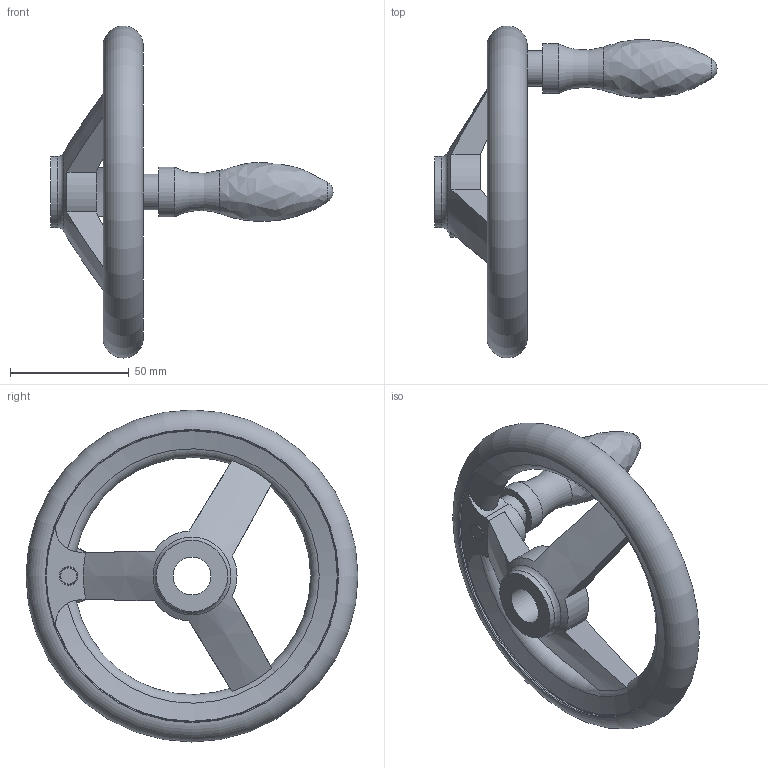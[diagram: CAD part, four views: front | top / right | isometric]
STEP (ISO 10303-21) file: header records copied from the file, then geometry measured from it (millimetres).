
FILE_DESCRIPTION( ( 'STEP AP203' ), '1' );
FILE_NAME( 'C:/Temp/Ganter_Step_05_03_2020/data/1_3/din_950/din_950_b/din_950_b_d/Handwheel DIN 950-AL-140-B16-D.stp', '2020-03-05T10:29:40', ( 'License CC BY-ND 4.0' ), ( 'CADENAS' ), ' ', 'PARTsolutions', ' ' );
FILE_SCHEMA( ( 'CONFIG_CONTROL_DESIGN' ) );
Length unit declared in the file: millimetre
Products named in the file (1): _Handwheel DIN 950-AL-140-B16-D
Bounding box: 119 x 140 x 140 mm (x, y, z)
Volume: 150932.9 mm3; surface area: 37930.1 mm2
Topology: 1 solids, 1 shells, 44 faces, 119 edges, 75 vertices
Faces by surface type: cylinder 13, plane 12, torus 11, cone 6, bspline 1, sphere 1
Full cylindrical faces by diameter (mm): 15 x1, 16 x1, 21 x1, 30 x2, 123 x2
Entity records: 1643 total; most frequent: CARTESIAN_POINT 624, DIRECTION 196, ORIENTED_EDGE 184, AXIS2_PLACEMENT_3D 93, EDGE_CURVE 92, EDGE_LOOP 71, VERTEX_POINT 71, FACE_OUTER_BOUND 60
